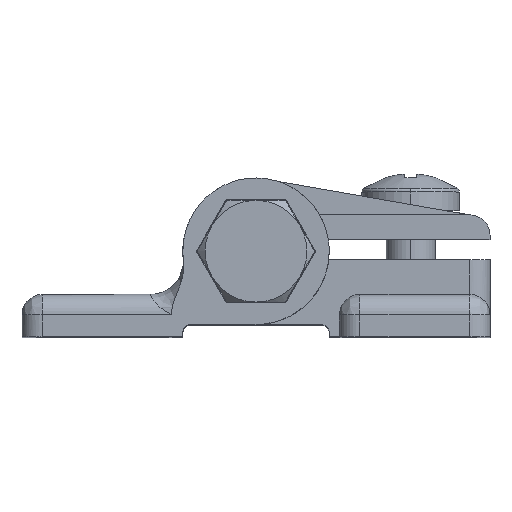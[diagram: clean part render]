
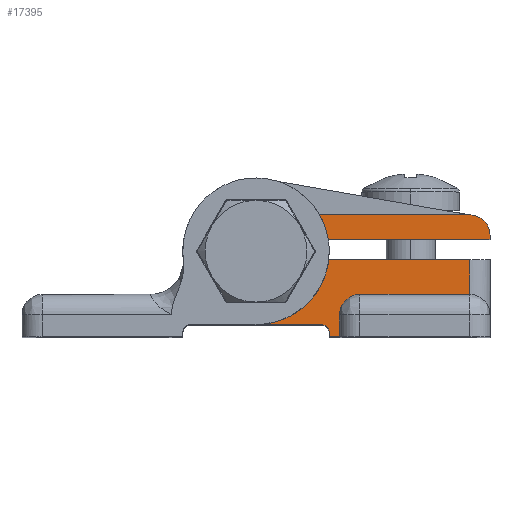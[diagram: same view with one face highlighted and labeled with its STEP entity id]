
A CAD part, top view. The second image highlights one B-rep face of the part: STEP entity #17395.
In plain terms, the highlighted planar face has unit normal (0, 0, 1).
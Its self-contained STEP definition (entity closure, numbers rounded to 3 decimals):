
#52 = ORIENTED_EDGE ( 'NONE', *, *, #14911, .T. ) ;
#96 = CARTESIAN_POINT ( 'NONE',  ( 26.25, 4.5, 15.5 ) ) ;
#187 = CARTESIAN_POINT ( 'NONE',  ( 28.75, 2., 15.5 ) ) ;
#474 = LINE ( 'NONE', #17010, #8601 ) ;
#504 = CARTESIAN_POINT ( 'NONE',  ( 0., 0., 15.5 ) ) ;
#658 = DIRECTION ( 'NONE',  ( 0., 0., -1. ) ) ;
#846 = VECTOR ( 'NONE', #1801, 1000. ) ;
#926 = DIRECTION ( 'NONE',  ( 1., 0., 0. ) ) ;
#987 = VECTOR ( 'NONE', #15556, 1000. ) ;
#1141 = CARTESIAN_POINT ( 'NONE',  ( 28.75, 1.5, 15.5 ) ) ;
#1270 = VERTEX_POINT ( 'NONE', #4041 ) ;
#1355 = CARTESIAN_POINT ( 'NONE',  ( 12.75, -5.3, 15.5 ) ) ;
#1383 = VERTEX_POINT ( 'NONE', #1355 ) ;
#1505 = AXIS2_PLACEMENT_3D ( 'NONE', #20955, #1810, #9319 ) ;
#1603 = CARTESIAN_POINT ( 'NONE',  ( 9., -10.5, 15.5 ) ) ;
#1666 = CARTESIAN_POINT ( 'NONE',  ( 0., -9., 15.5 ) ) ;
#1703 = CARTESIAN_POINT ( 'NONE',  ( 10.25, -7.8, 15.5 ) ) ;
#1801 = DIRECTION ( 'NONE',  ( -1., 0., 0. ) ) ;
#1810 = DIRECTION ( 'NONE',  ( 0., 0., 1. ) ) ;
#1990 = ORIENTED_EDGE ( 'NONE', *, *, #3655, .F. ) ;
#2060 = EDGE_CURVE ( 'NONE', #2124, #5682, #6186, .T. ) ;
#2124 = VERTEX_POINT ( 'NONE', #1603 ) ;
#2156 = CIRCLE ( 'NONE', #4876, 9. ) ;
#2175 = AXIS2_PLACEMENT_3D ( 'NONE', #504, #18425, #3815 ) ;
#2243 = EDGE_CURVE ( 'NONE', #1270, #15830, #7238, .T. ) ;
#2423 = VERTEX_POINT ( 'NONE', #19078 ) ;
#2469 = CARTESIAN_POINT ( 'NONE',  ( 9., -15., 15.5 ) ) ;
#2512 = CIRCLE ( 'NONE', #2175, 7.75 ) ;
#2606 = EDGE_CURVE ( 'NONE', #11729, #4605, #13095, .T. ) ;
#2857 = VERTEX_POINT ( 'NONE', #2950 ) ;
#2882 = EDGE_CURVE ( 'NONE', #4605, #2857, #13931, .T. ) ;
#2950 = CARTESIAN_POINT ( 'NONE',  ( 26.25, -5.3, 15.5 ) ) ;
#2952 = ORIENTED_EDGE ( 'NONE', *, *, #13554, .F. ) ;
#3266 = CARTESIAN_POINT ( 'NONE',  ( 10.25, -10.5, 15.5 ) ) ;
#3344 = EDGE_LOOP ( 'NONE', ( #19262, #18649, #14039, #1990, #52, #7562, #6841, #16136, #16222, #5336, #5128, #5205, #6071, #2952, #9577, #4130 ) ) ;
#3646 = CARTESIAN_POINT ( 'NONE',  ( 7.603, 1.5, 15.5 ) ) ;
#3655 = EDGE_CURVE ( 'NONE', #19199, #19653, #2156, .T. ) ;
#3815 = DIRECTION ( 'NONE',  ( -1., 0., 0. ) ) ;
#3843 = VERTEX_POINT ( 'NONE', #1703 ) ;
#4041 = CARTESIAN_POINT ( 'NONE',  ( 28.75, 1.5, 15.5 ) ) ;
#4130 = ORIENTED_EDGE ( 'NONE', *, *, #2243, .F. ) ;
#4255 = LINE ( 'NONE', #1141, #987 ) ;
#4605 = VERTEX_POINT ( 'NONE', #6345 ) ;
#4624 = CARTESIAN_POINT ( 'NONE',  ( 8., -10., 15.5 ) ) ;
#4695 = EDGE_CURVE ( 'NONE', #3843, #5682, #474, .T. ) ;
#4876 = AXIS2_PLACEMENT_3D ( 'NONE', #15382, #658, #20399 ) ;
#4924 = CIRCLE ( 'NONE', #16159, 2.5 ) ;
#4964 = CARTESIAN_POINT ( 'NONE',  ( 7.794, 4.5, 15.5 ) ) ;
#5128 = ORIENTED_EDGE ( 'NONE', *, *, #10276, .F. ) ;
#5205 = ORIENTED_EDGE ( 'NONE', *, *, #2882, .F. ) ;
#5336 = ORIENTED_EDGE ( 'NONE', *, *, #15786, .F. ) ;
#5457 = VECTOR ( 'NONE', #5817, 1000. ) ;
#5470 = EDGE_CURVE ( 'NONE', #15830, #18233, #2512, .T. ) ;
#5526 = CARTESIAN_POINT ( 'NONE',  ( -9., -15., 15.5 ) ) ;
#5682 = VERTEX_POINT ( 'NONE', #3266 ) ;
#5769 = DIRECTION ( 'NONE',  ( 0., 1., 0. ) ) ;
#5817 = DIRECTION ( 'NONE',  ( 0., -1., 0. ) ) ;
#5928 = CARTESIAN_POINT ( 'NONE',  ( 26.25, -15., 15.5 ) ) ;
#6071 = ORIENTED_EDGE ( 'NONE', *, *, #2606, .F. ) ;
#6186 = LINE ( 'NONE', #9282, #13464 ) ;
#6202 = DIRECTION ( 'NONE',  ( 0., 0., 1. ) ) ;
#6345 = CARTESIAN_POINT ( 'NONE',  ( 26.25, -1., 15.5 ) ) ;
#6405 = VECTOR ( 'NONE', #17531, 1000. ) ;
#6688 = CARTESIAN_POINT ( 'NONE',  ( -9., -1., 15.5 ) ) ;
#6841 = ORIENTED_EDGE ( 'NONE', *, *, #11271, .F. ) ;
#6891 = DIRECTION ( 'NONE',  ( 1., 0., 0. ) ) ;
#7238 = LINE ( 'NONE', #15351, #13121 ) ;
#7562 = ORIENTED_EDGE ( 'NONE', *, *, #15804, .F. ) ;
#7808 = LINE ( 'NONE', #11020, #6405 ) ;
#7896 = LINE ( 'NONE', #96, #846 ) ;
#8268 = VECTOR ( 'NONE', #926, 1000. ) ;
#8303 = AXIS2_PLACEMENT_3D ( 'NONE', #4624, #17629, #18261 ) ;
#8601 = VECTOR ( 'NONE', #8683, 1000. ) ;
#8683 = DIRECTION ( 'NONE',  ( 0., -1., 0. ) ) ;
#8826 = PLANE ( 'NONE',  #10254 ) ;
#8932 = DIRECTION ( 'NONE',  ( -1., 0., 0. ) ) ;
#9282 = CARTESIAN_POINT ( 'NONE',  ( -9., -10.5, 15.5 ) ) ;
#9319 = DIRECTION ( 'NONE',  ( -1., 0., 0. ) ) ;
#9340 = VERTEX_POINT ( 'NONE', #9355 ) ;
#9345 = EDGE_CURVE ( 'NONE', #1270, #14043, #4255, .T. ) ;
#9355 = CARTESIAN_POINT ( 'NONE',  ( 9., -10., 15.5 ) ) ;
#9577 = ORIENTED_EDGE ( 'NONE', *, *, #5470, .F. ) ;
#9990 = CARTESIAN_POINT ( 'NONE',  ( 7.685, -1., 15.5 ) ) ;
#10254 = AXIS2_PLACEMENT_3D ( 'NONE', #5526, #11935, #8932 ) ;
#10276 = EDGE_CURVE ( 'NONE', #2857, #1383, #7808, .T. ) ;
#10338 = CARTESIAN_POINT ( 'NONE',  ( 26.25, 2., 15.5 ) ) ;
#10442 = DIRECTION ( 'NONE',  ( -1., 0., 0. ) ) ;
#10443 = DIRECTION ( 'NONE',  ( 0., 0., -1. ) ) ;
#10569 = LINE ( 'NONE', #2469, #13450 ) ;
#10747 = CARTESIAN_POINT ( 'NONE',  ( 0., -9., 15.5 ) ) ;
#11020 = CARTESIAN_POINT ( 'NONE',  ( -9., -5.3, 15.5 ) ) ;
#11096 = CIRCLE ( 'NONE', #12114, 2.5 ) ;
#11271 = EDGE_CURVE ( 'NONE', #2124, #9340, #10569, .T. ) ;
#11360 = EDGE_CURVE ( 'NONE', #19094, #19653, #7896, .T. ) ;
#11729 = VERTEX_POINT ( 'NONE', #9990 ) ;
#11935 = DIRECTION ( 'NONE',  ( 0., 0., -1. ) ) ;
#12114 = AXIS2_PLACEMENT_3D ( 'NONE', #10338, #10443, #20370 ) ;
#12239 = LINE ( 'NONE', #10747, #8268 ) ;
#12547 = EDGE_CURVE ( 'NONE', #19094, #14043, #11096, .T. ) ;
#12562 = CARTESIAN_POINT ( 'NONE',  ( 26.25, 4.5, 15.5 ) ) ;
#12699 = DIRECTION ( 'NONE',  ( 1., 0., 0. ) ) ;
#12719 = DIRECTION ( 'NONE',  ( -1., 0., 0. ) ) ;
#13095 = LINE ( 'NONE', #6688, #17875 ) ;
#13121 = VECTOR ( 'NONE', #10442, 1000. ) ;
#13450 = VECTOR ( 'NONE', #5769, 1000. ) ;
#13464 = VECTOR ( 'NONE', #12699, 1000. ) ;
#13554 = EDGE_CURVE ( 'NONE', #18233, #11729, #15812, .T. ) ;
#13931 = LINE ( 'NONE', #5928, #5457 ) ;
#14039 = ORIENTED_EDGE ( 'NONE', *, *, #11360, .T. ) ;
#14043 = VERTEX_POINT ( 'NONE', #187 ) ;
#14323 = CARTESIAN_POINT ( 'NONE',  ( 12.75, -7.8, 15.5 ) ) ;
#14911 = EDGE_CURVE ( 'NONE', #19199, #2423, #12239, .T. ) ;
#15351 = CARTESIAN_POINT ( 'NONE',  ( -9., 1.5, 15.5 ) ) ;
#15382 = CARTESIAN_POINT ( 'NONE',  ( 0., 0., 15.5 ) ) ;
#15459 = FACE_OUTER_BOUND ( 'NONE', #3344, .T. ) ;
#15477 = CIRCLE ( 'NONE', #8303, 1. ) ;
#15556 = DIRECTION ( 'NONE',  ( 0., 1., 0. ) ) ;
#15786 = EDGE_CURVE ( 'NONE', #1383, #3843, #4924, .T. ) ;
#15804 = EDGE_CURVE ( 'NONE', #9340, #2423, #15477, .T. ) ;
#15812 = CIRCLE ( 'NONE', #1505, 7.75 ) ;
#15830 = VERTEX_POINT ( 'NONE', #3646 ) ;
#15873 = CARTESIAN_POINT ( 'NONE',  ( -7.75, 0., 15.5 ) ) ;
#16136 = ORIENTED_EDGE ( 'NONE', *, *, #2060, .T. ) ;
#16159 = AXIS2_PLACEMENT_3D ( 'NONE', #14323, #6202, #12719 ) ;
#16222 = ORIENTED_EDGE ( 'NONE', *, *, #4695, .F. ) ;
#17010 = CARTESIAN_POINT ( 'NONE',  ( 10.25, -15., 15.5 ) ) ;
#17395 = ADVANCED_FACE ( 'NONE', ( #15459 ), #8826, .F. ) ;
#17531 = DIRECTION ( 'NONE',  ( -1., 0., 0. ) ) ;
#17629 = DIRECTION ( 'NONE',  ( 0., 0., 1. ) ) ;
#17875 = VECTOR ( 'NONE', #6891, 1000. ) ;
#18233 = VERTEX_POINT ( 'NONE', #15873 ) ;
#18261 = DIRECTION ( 'NONE',  ( 1., 0., 0. ) ) ;
#18425 = DIRECTION ( 'NONE',  ( 0., 0., 1. ) ) ;
#18649 = ORIENTED_EDGE ( 'NONE', *, *, #12547, .F. ) ;
#19078 = CARTESIAN_POINT ( 'NONE',  ( 8., -9., 15.5 ) ) ;
#19094 = VERTEX_POINT ( 'NONE', #12562 ) ;
#19199 = VERTEX_POINT ( 'NONE', #1666 ) ;
#19262 = ORIENTED_EDGE ( 'NONE', *, *, #9345, .T. ) ;
#19653 = VERTEX_POINT ( 'NONE', #4964 ) ;
#20370 = DIRECTION ( 'NONE',  ( 1., 0., 0. ) ) ;
#20399 = DIRECTION ( 'NONE',  ( 1., 0., 0. ) ) ;
#20955 = CARTESIAN_POINT ( 'NONE',  ( 0., 0., 15.5 ) ) ;
